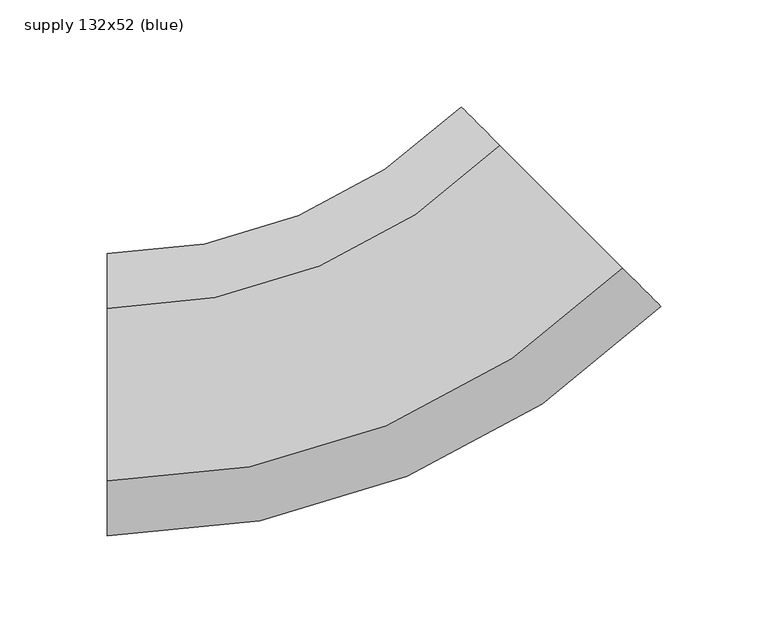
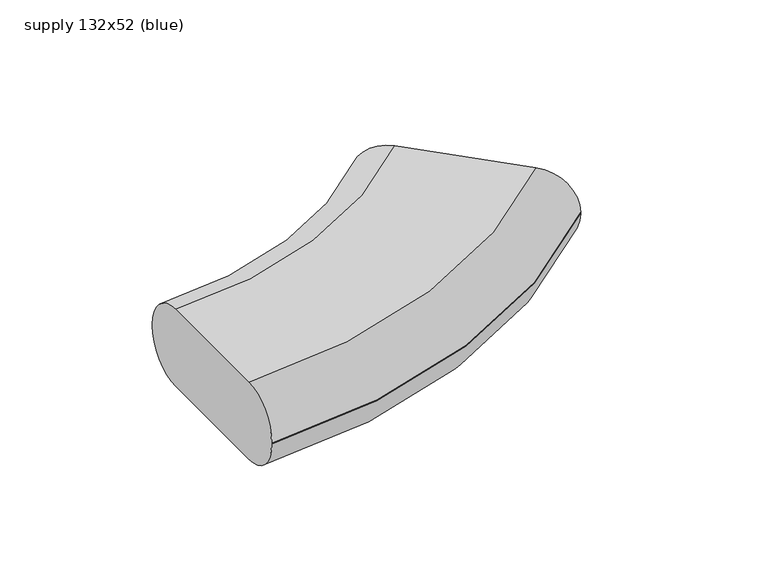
"""IFC4 building model written with IfcOpenShell, lengths in millimetres: duct segment geometry, NLRS_57_DUF_UN_Hybalans flexbend oval_M&G : supply 132x52 (blue)."""

from ifc_helpers import new_model, si_unit, point, frame, origin, place, context, project, spatial, polyline, circle_curve, ellipse_curve, trimmed, source, transform, mapped, element, save
from ifc_brep_helpers import plane_surface, cylinder_surface, revolved_surface, advanced_brep


def supply_132x52_blue_7206dcc0(model_context):
    return source(origin(), model_context, "Body", "AdvancedBrep", [
        advanced_brep(
        [(-124.2640687, -40.4, 26.0), (-124.2640687, 40.4, 26.0), (-124.2640687, 66.0, 0.4), (-124.2640687, 66.0, -0.4), (-124.2640687, 40.4, -26.0), (-124.2640687, -40.4, -26.0), (-124.2640687, -66.0, -0.4), (-124.2640687, -66.0, 0.4), (116.4350796, 59.3008517, 26.0), (134.5370132, 41.1989181, 0.4), (134.5370132, 41.1989181, -0.4), (116.4350796, 59.3008517, -26.0), (59.3008517, 116.4350796, -26.0), (41.1989181, 134.5370132, -0.4), (41.1989181, 134.5370132, 0.4), (59.3008517, 116.4350796, 26.0)],
        [
            (0, 1),
            (1, 2, circle_curve(frame((-124.2640687, 40.4, 0.4), z_axis=(-1.0, 0.0, 0.0), x_axis=(0.0, 1.0, 0.0)), 25.6)),
            (2, 3),
            (3, 4, circle_curve(frame((-124.2640687, 40.4, -0.4), z_axis=(-1.0, 0.0, 0.0), x_axis=(0.0, 1.0, 0.0)), 25.6)),
            (4, 5),
            (5, 6, circle_curve(frame((-124.2640687, -40.4, -0.4), z_axis=(-1.0, 0.0, 0.0), x_axis=(0.0, 1.0, 0.0)), 25.6)),
            (6, 7),
            (7, 0, circle_curve(frame((-124.2640687, -40.4, 0.4), z_axis=(-1.0, 0.0, 0.0), x_axis=(0.0, 1.0, 0.0)), 25.6)),
            (8, 9, circle_curve(frame((116.4350796, 59.3008517, 0.4), z_axis=(0.7071067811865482, 0.7071067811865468, 0.0), x_axis=(-0.7071067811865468, 0.7071067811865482, 0.0)), 25.6)),
            (9, 10),
            (10, 11, circle_curve(frame((116.4350796, 59.3008517, -0.4), z_axis=(0.7071067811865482, 0.7071067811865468, 0.0), x_axis=(-0.7071067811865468, 0.7071067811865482, 0.0)), 25.6)),
            (11, 12),
            (12, 13, circle_curve(frame((59.3008517, 116.4350796, -0.4), z_axis=(0.7071067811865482, 0.7071067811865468, 0.0), x_axis=(-0.7071067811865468, 0.7071067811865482, 0.0)), 25.6)),
            (13, 14),
            (14, 15, circle_curve(frame((59.3008517, 116.4350796, 0.4), z_axis=(0.7071067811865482, 0.7071067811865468, 0.0), x_axis=(-0.7071067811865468, 0.7071067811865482, 0.0)), 25.6)),
            (15, 8),
            (15, 1, circle_curve(frame((-124.2640687, 300.0, 26.0), z_axis=(0.0, 0.0, -1.0), x_axis=(0.0, -1.0, 0.0)), 259.6)),
            (0, 8, circle_curve(frame((-124.2640687, 300.0, 26.0), z_axis=(0.0, 0.0, 1.0), x_axis=(0.0, -1.0, 0.0)), 340.4)),
            (14, 2, circle_curve(frame((-124.2640687, 300.0, 0.4), z_axis=(0.0, 0.0, -1.0), x_axis=(0.0, -1.0, 0.0)), 234.0)),
            (13, 3, circle_curve(frame((-124.2640687, 300.0, -0.4), z_axis=(0.0, 0.0, -1.0), x_axis=(0.0, -1.0, 0.0)), 234.0)),
            (12, 4, circle_curve(frame((-124.2640687, 300.0, -26.0), z_axis=(0.0, 0.0, -1.0), x_axis=(0.0, -1.0, 0.0)), 259.6)),
            (11, 5, circle_curve(frame((-124.2640687, 300.0, -26.0), z_axis=(0.0, 0.0, -1.0), x_axis=(0.0, -1.0, 0.0)), 340.4)),
            (10, 6, circle_curve(frame((-124.2640687, 300.0, -0.4), z_axis=(0.0, 0.0, -1.0), x_axis=(0.0, -1.0, 0.0)), 366.0)),
            (9, 7, circle_curve(frame((-124.2640687, 300.0, 0.4), z_axis=(0.0, 0.0, -1.0), x_axis=(0.0, -1.0, 0.0)), 366.0)),
        ],
        [
            plane_surface(frame((-124.2640687, 0.0, 0.0), z_axis=(-1.0, 0.0, 0.0), x_axis=(0.0, 0.0, 1.0))),
            plane_surface(frame((87.8679656, 87.8679656, 0.0), z_axis=(0.7071067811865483, 0.7071067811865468, 0.0), x_axis=(0.0, 0.0, 1.0))),
            plane_surface(frame((-124.2640687, 300.0, 26.0), z_axis=(0.0, 0.0, 1.0), x_axis=(0.0, -1.0, 0.0))),
            revolved_surface(trimmed(ellipse_curve(frame((-124.2640687, 40.4, 0.4), z_axis=(-1.0, 0.0, 0.0), x_axis=(0.0, 1.0, 0.0)), 25.6, 25.6), [point((-124.2640687, 40.4, 26.0))], [point((-124.2640687, 66.0, 0.4))], True, "CARTESIAN"), (-124.2640687, 300.0, 0.0), (0.0, 0.0, 1.0)),
            revolved_surface(polyline([(-124.2640687, 66.0, 0.4), (-124.2640687, 66.0, -0.4)]), (-124.2640687, 300.0, 0.0), (0.0, 0.0, 1.0)),
            revolved_surface(trimmed(ellipse_curve(frame((-124.2640687, 40.4, -0.4), z_axis=(-1.0, 0.0, 0.0), x_axis=(0.0, 1.0, 0.0)), 25.6, 25.6), [point((-124.2640687, 66.0, -0.4))], [point((-124.2640687, 40.4, -26.0))], True, "CARTESIAN"), (-124.2640687, 300.0, 0.0), (0.0, 0.0, 1.0)),
            plane_surface(frame((-124.2640687, 300.0, -26.0), z_axis=(0.0, 0.0, -1.0), x_axis=(0.0, -1.0, 0.0))),
            revolved_surface(trimmed(ellipse_curve(frame((-124.2640687, -40.4, -0.4), z_axis=(-1.0, 0.0, 0.0), x_axis=(0.0, 1.0, 0.0)), 25.6, 25.6), [point((-124.2640687, -40.4, -26.0))], [point((-124.2640687, -66.0, -0.4))], True, "CARTESIAN"), (-124.2640687, 300.0, 0.0), (0.0, 0.0, 1.0)),
            cylinder_surface(frame((-124.2640687, 300.0, 0.0), z_axis=(0.0, 0.0, 1.0), x_axis=(0.0, -1.0, 0.0)), 366.0),
            revolved_surface(trimmed(ellipse_curve(frame((-124.2640687, -40.4, 0.4), z_axis=(-1.0, 0.0, 0.0), x_axis=(0.0, 1.0, 0.0)), 25.6, 25.6), [point((-124.2640687, -66.0, 0.4))], [point((-124.2640687, -40.4, 26.0))], True, "CARTESIAN"), (-124.2640687, 300.0, 0.0), (0.0, 0.0, 1.0)),
        ],
        [
            (0, [[1, 2, 3, 4, 5, 6, 7, 8]]),
            (1, [[9, 10, 11, 12, 13, 14, 15, 16]]),
            (2, [[17, -1, 18, -16]]),
            (3, [[19, -2, -17, -15]]),
            (4, [[20, -3, -19, -14]]),
            (5, [[21, -4, -20, -13]]),
            (6, [[22, -5, -21, -12]]),
            (7, [[23, -6, -22, -11]]),
            (8, [[24, -7, -23, -10]]),
            (9, [[-18, -8, -24, -9]]),
        ],
    ),
    ])


if __name__ == "__main__":
    model = new_model("IFC4")
    model_context = context("Model", 3, world=origin())
    ifc_project = project(units=[si_unit("LENGTHUNIT", "METRE", prefix="MILLI")], contexts=[model_context])
    site = spatial("IfcSite", under=ifc_project)
    building = spatial("IfcBuilding", under=site)
    placement = place(None, origin())
    supply_132x52_blue_shape = supply_132x52_blue_7206dcc0(model_context)
    element("IfcDuctSegment", 1, ObjectType="NLRS_57_DUF_UN_Hybalans flexbend oval_M&G : supply 132x52 (blue)", at=placement, inside=building, context=model_context, shape_type="MappedRepresentation", body=[
        mapped(supply_132x52_blue_shape, transform((0.0, 0.0, 0.0), x_axis=(1.0, 0.0, 0.0), y_axis=(0.0, 1.0, 0.0), z_axis=(0.0, 0.0, 1.0))),
    ])
    save(model, "model.ifc")
